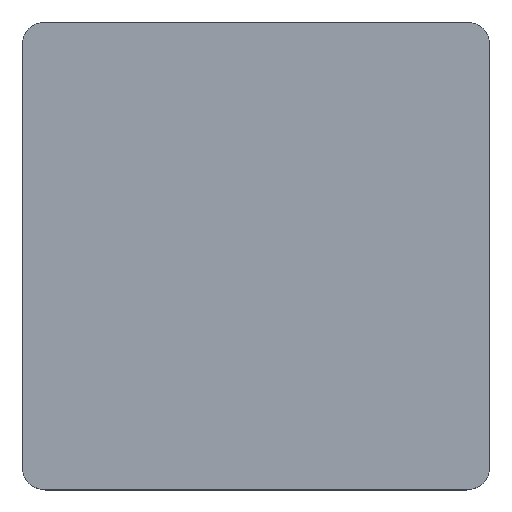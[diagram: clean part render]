
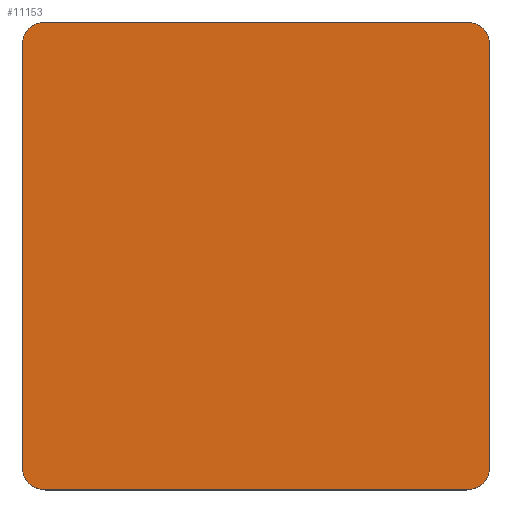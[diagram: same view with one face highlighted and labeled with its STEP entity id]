
A CAD part, top view. The second image highlights one B-rep face of the part: STEP entity #11153.
In plain terms, the highlighted planar face has unit normal (0, 0, 1).
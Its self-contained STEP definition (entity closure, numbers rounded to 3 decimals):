
#11078=CARTESIAN_POINT('',(0.,0.,20.));
#11079=DIRECTION('',(1.,0.,0.));
#11080=DIRECTION('',(0.,0.,1.));
#11081=AXIS2_PLACEMENT_3D('',#11078,#11080,#11079);
#11082=PLANE('',#11081);
#11083=CARTESIAN_POINT('',(-315.,-350.,20.));
#11084=VERTEX_POINT('',#11083);
#11085=CARTESIAN_POINT('',(315.,-350.,20.));
#11086=VERTEX_POINT('',#11085);
#11087=CARTESIAN_POINT('',(-315.,-350.,20.));
#11088=DIRECTION('',(1.,0.,0.));
#11089=VECTOR('',#11088,630.);
#11090=LINE('',#11087,#11089);
#11091=EDGE_CURVE('',#11084,#11086,#11090,.T.);
#11092=ORIENTED_EDGE('E9',*,*,#11091,.T.);
#11093=CARTESIAN_POINT('',(350.,-315.,20.));
#11094=VERTEX_POINT('',#11093);
#11095=CARTESIAN_POINT('',(315.,-315.,20.));
#11096=DIRECTION('',(0.,-1.,0.));
#11097=DIRECTION('',(0.,-0.,1.));
#11098=AXIS2_PLACEMENT_3D('',#11095,#11097,#11096);
#11099=CIRCLE('',#11098,35.);
#11100=EDGE_CURVE('',#11086,#11094,#11099,.T.);
#11101=ORIENTED_EDGE('E10',*,*,#11100,.T.);
#11102=CARTESIAN_POINT('',(350.,315.,20.));
#11103=VERTEX_POINT('',#11102);
#11104=CARTESIAN_POINT('',(350.,-315.,20.));
#11105=DIRECTION('',(0.,1.,0.));
#11106=VECTOR('',#11105,630.);
#11107=LINE('',#11104,#11106);
#11108=EDGE_CURVE('',#11094,#11103,#11107,.T.);
#11109=ORIENTED_EDGE('E11',*,*,#11108,.T.);
#11110=CARTESIAN_POINT('',(315.,350.,20.));
#11111=VERTEX_POINT('',#11110);
#11112=CARTESIAN_POINT('',(315.,315.,20.));
#11113=DIRECTION('',(1.,0.,0.));
#11114=DIRECTION('',(0.,0.,1.));
#11115=AXIS2_PLACEMENT_3D('',#11112,#11114,#11113);
#11116=CIRCLE('',#11115,35.);
#11117=EDGE_CURVE('',#11103,#11111,#11116,.T.);
#11118=ORIENTED_EDGE('E12',*,*,#11117,.T.);
#11119=CARTESIAN_POINT('',(-315.,350.,20.));
#11120=VERTEX_POINT('',#11119);
#11121=CARTESIAN_POINT('',(315.,350.,20.));
#11122=DIRECTION('',(-1.,0.,0.));
#11123=VECTOR('',#11122,630.);
#11124=LINE('',#11121,#11123);
#11125=EDGE_CURVE('',#11111,#11120,#11124,.T.);
#11126=ORIENTED_EDGE('E13',*,*,#11125,.T.);
#11127=CARTESIAN_POINT('',(-350.,315.,20.));
#11128=VERTEX_POINT('',#11127);
#11129=CARTESIAN_POINT('',(-315.,315.,20.));
#11130=DIRECTION('',(0.,1.,0.));
#11131=DIRECTION('',(0.,0.,1.));
#11132=AXIS2_PLACEMENT_3D('',#11129,#11131,#11130);
#11133=CIRCLE('',#11132,35.);
#11134=EDGE_CURVE('',#11120,#11128,#11133,.T.);
#11135=ORIENTED_EDGE('E14',*,*,#11134,.T.);
#11136=CARTESIAN_POINT('',(-350.,-315.,20.));
#11137=VERTEX_POINT('',#11136);
#11138=CARTESIAN_POINT('',(-350.,315.,20.));
#11139=DIRECTION('',(0.,-1.,0.));
#11140=VECTOR('',#11139,630.);
#11141=LINE('',#11138,#11140);
#11142=EDGE_CURVE('',#11128,#11137,#11141,.T.);
#11143=ORIENTED_EDGE('E15',*,*,#11142,.T.);
#11144=CARTESIAN_POINT('',(-315.,-315.,20.));
#11145=DIRECTION('',(-1.,0.,0.));
#11146=DIRECTION('',(-0.,0.,1.));
#11147=AXIS2_PLACEMENT_3D('',#11144,#11146,#11145);
#11148=CIRCLE('',#11147,35.);
#11149=EDGE_CURVE('',#11137,#11084,#11148,.T.);
#11150=ORIENTED_EDGE('E16',*,*,#11149,.T.);
#11151=EDGE_LOOP('',(#11092,#11101,#11109,#11118,#11126,#11135,#11143,#11150));
#11152=FACE_OUTER_BOUND('',#11151,.T.);
#11153=ADVANCED_FACE('F2',(#11152),#11082,.T.);
